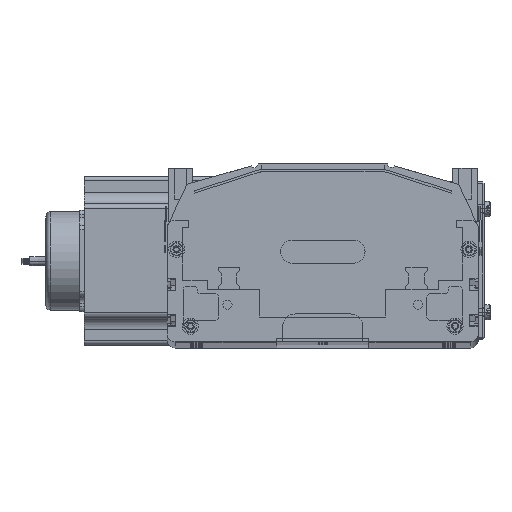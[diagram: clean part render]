
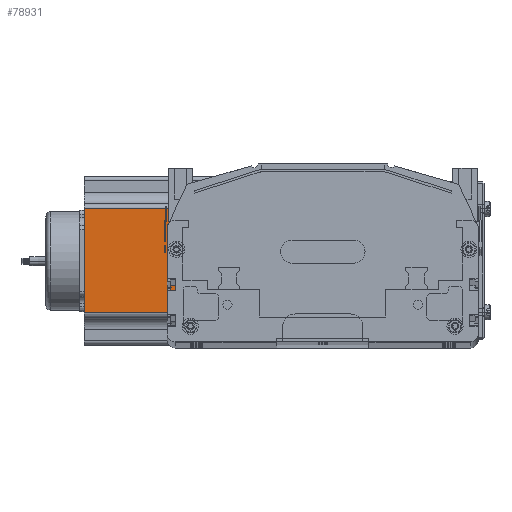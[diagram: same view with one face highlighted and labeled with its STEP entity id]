
A CAD part, top view. The second image highlights one B-rep face of the part: STEP entity #78931.
In plain terms, the highlighted planar face has unit normal (0, 0, 1) as drawn and (0, -1, 0) by its records, which use the part's own axes.
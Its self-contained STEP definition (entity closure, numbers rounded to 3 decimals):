
#21347 = CARTESIAN_POINT ( 'NONE',  ( 21.048, 0., 0. ) ) ;
#21452 = CARTESIAN_POINT ( 'NONE',  ( 21.048, 0., 160.5 ) ) ;
#75925 = CARTESIAN_POINT ( 'NONE',  ( 88.952, 0., 160.5 ) ) ;
#76078 = DIRECTION ( 'NONE',  ( 1., 0., 0. ) ) ;
#76079 = VECTOR ( 'NONE', #76078, 1000. ) ;
#76083 = CARTESIAN_POINT ( 'NONE',  ( 0., 0., 160.5 ) ) ;
#76085 = LINE ( 'NONE', #76083, #76079 ) ;
#76123 = DIRECTION ( 'NONE',  ( 0., 0., 1. ) ) ;
#76124 = DIRECTION ( 'NONE',  ( 0., 1., 0. ) ) ;
#76126 = CARTESIAN_POINT ( 'NONE',  ( 88.952, 0., 160.5 ) ) ;
#76127 = LINE ( 'NONE', #76126, #76235 ) ;
#76128 = CARTESIAN_POINT ( 'NONE',  ( 88.952, 0., 0. ) ) ;
#76129 = AXIS2_PLACEMENT_3D ( 'NONE', #76244, #76124, #76123 ) ;
#76130 = DIRECTION ( 'NONE',  ( 1., 0., 0. ) ) ;
#76131 = VECTOR ( 'NONE', #76130, 1000. ) ;
#76132 = CARTESIAN_POINT ( 'NONE',  ( 0., 0., 0. ) ) ;
#76133 = LINE ( 'NONE', #76132, #76131 ) ;
#76134 = FACE_OUTER_BOUND ( 'NONE', #78929, .T. ) ;
#76228 = DIRECTION ( 'NONE',  ( 0., 0., -1. ) ) ;
#76229 = VECTOR ( 'NONE', #76228, 1000. ) ;
#76232 = CARTESIAN_POINT ( 'NONE',  ( 21.048, 0., 160.5 ) ) ;
#76233 = LINE ( 'NONE', #76232, #76229 ) ;
#76234 = DIRECTION ( 'NONE',  ( 0., 0., 1. ) ) ;
#76235 = VECTOR ( 'NONE', #76234, 1000. ) ;
#76244 = CARTESIAN_POINT ( 'NONE',  ( 0., 0., 160.5 ) ) ;
#76350 = PLANE ( 'NONE',  #76129 ) ;
#78851 = EDGE_CURVE ( 'NONE', #84874, #78852, #76085, .T. ) ;
#78852 = VERTEX_POINT ( 'NONE', #75925 ) ;
#78918 = ORIENTED_EDGE ( 'NONE', *, *, #78930, .T. ) ;
#78922 = ORIENTED_EDGE ( 'NONE', *, *, #78851, .F. ) ;
#78929 = EDGE_LOOP ( 'NONE', ( #78918, #78933, #78922, #84876 ) ) ;
#78930 = EDGE_CURVE ( 'NONE', #84870, #78932, #76133, .T. ) ;
#78931 = ADVANCED_FACE ( 'NONE', ( #76134 ), #76350, .F. ) ;
#78932 = VERTEX_POINT ( 'NONE', #76128 ) ;
#78933 = ORIENTED_EDGE ( 'NONE', *, *, #78934, .T. ) ;
#78934 = EDGE_CURVE ( 'NONE', #78932, #78852, #76127, .T. ) ;
#78936 = EDGE_CURVE ( 'NONE', #84874, #84870, #76233, .T. ) ;
#84870 = VERTEX_POINT ( 'NONE', #21347 ) ;
#84874 = VERTEX_POINT ( 'NONE', #21452 ) ;
#84876 = ORIENTED_EDGE ( 'NONE', *, *, #78936, .T. ) ;
